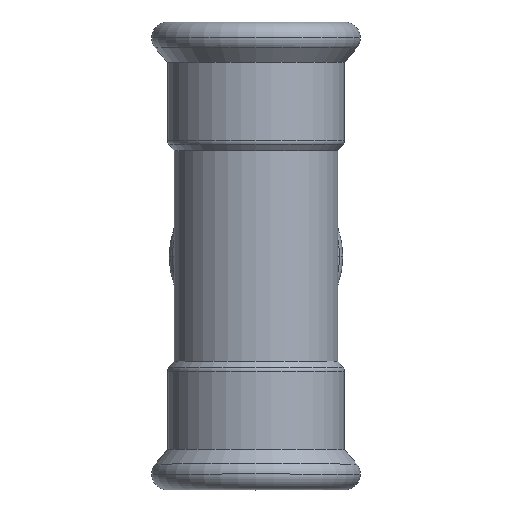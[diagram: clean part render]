
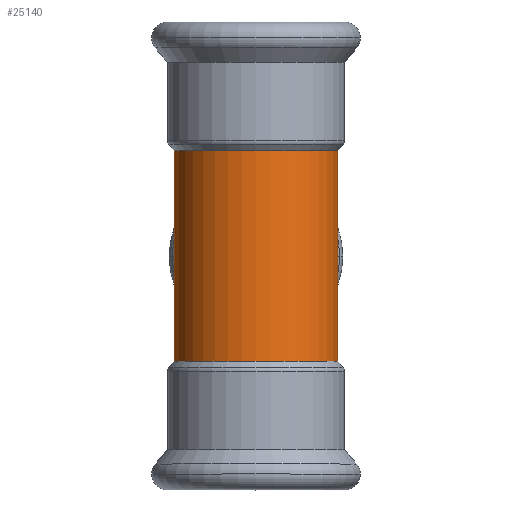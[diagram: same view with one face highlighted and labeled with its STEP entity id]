
A CAD part, top view. The second image highlights one B-rep face of the part: STEP entity #25140.
In plain terms, the highlighted cylindrical face has radius 21 mm (diameter 42 mm), a partial arc.
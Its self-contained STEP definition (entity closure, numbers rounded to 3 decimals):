
#3930=CARTESIAN_POINT('',(-309.511,160.022,
-27.));
#3940=VERTEX_POINT('',#3930);
#4120=CARTESIAN_POINT('',(-267.511,160.022,
-27.));
#4130=VERTEX_POINT('',#4120);
#4160=CARTESIAN_POINT('',(-288.511,160.022,
-27.));
#4170=DIRECTION('',(0.,0.,1.));
#4180=DIRECTION('',(-1.,0.,0.));
#4190=AXIS2_PLACEMENT_3D('',#4160,#4170,#4180);
#4200=CIRCLE('',#4190,21.);
#4620=CARTESIAN_POINT('',(-288.511,160.022,
27.));
#4630=DIRECTION('',(0.,0.,1.));
#4640=DIRECTION('',(-1.,0.,0.));
#4650=AXIS2_PLACEMENT_3D('',#4620,#4630,#4640);
#4660=CYLINDRICAL_SURFACE('',#4650,21.);
#11750=CARTESIAN_POINT('',(-267.511,160.022,
27.));
#11760=DIRECTION('',(0.,0.,1.));
#11770=VECTOR('',#11760,1.);
#11780=LINE('',#11750,#11770);
#11790=CARTESIAN_POINT('',(-267.511,160.022,
27.));
#11800=VERTEX_POINT('',#11790);
#11810=EDGE_CURVE('',#4130,#11800,#11780,.T.);
#11830=CARTESIAN_POINT('',(-288.511,160.022,
27.));
#11840=DIRECTION('',(0.,0.,1.));
#11850=DIRECTION('',(-1.,0.,0.));
#11860=AXIS2_PLACEMENT_3D('',#11830,#11840,#11850);
#11870=CIRCLE('',#11860,21.);
#11880=CARTESIAN_POINT('',(-309.511,160.022,
27.));
#11890=VERTEX_POINT('',#11880);
#11920=CARTESIAN_POINT('',(-309.511,160.022,
27.));
#11930=DIRECTION('',(0.,0.,1.));
#11940=VECTOR('',#11930,1.);
#11950=LINE('',#11920,#11940);
#11960=EDGE_CURVE('',#3940,#11890,#11950,.T.);
#24570=EDGE_CURVE('',#3940,#4130,#4200,.T.);
#25070=ORIENTED_EDGE('',*,*,#24570,.T.);
#25080=ORIENTED_EDGE('',*,*,#11960,.F.);
#25090=EDGE_CURVE('',#11890,#11800,#11870,.T.);
#25100=ORIENTED_EDGE('',*,*,#25090,.F.);
#25110=ORIENTED_EDGE('',*,*,#11810,.T.);
#25120=EDGE_LOOP('',(#25110,#25100,#25080,#25070));
#25130=FACE_OUTER_BOUND('',#25120,.T.);
#25140=ADVANCED_FACE('',(#25130),#4660,.T.);
